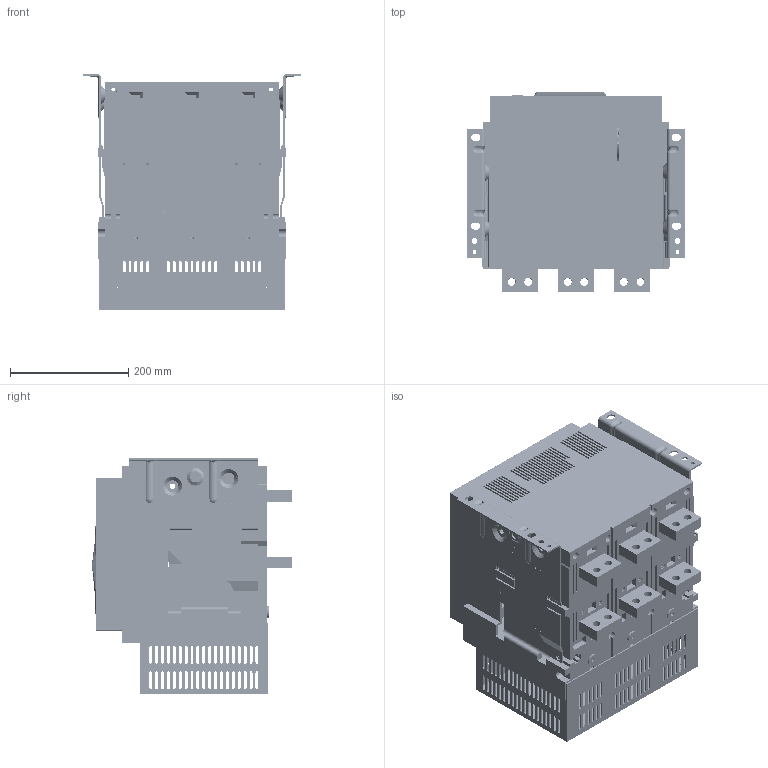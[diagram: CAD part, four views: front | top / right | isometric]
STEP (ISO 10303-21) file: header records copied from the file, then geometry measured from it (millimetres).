
FILE_DESCRIPTION((''),'2;1');
FILE_NAME('NA8G-2500-F-2500-3P_ASM','2020-05-12T16:42:21',('lcc'),(''),'CREO PARAMETRIC BY PTC INC, 2018020','CREO PARAMETRIC BY PTC INC, 2018020','');
FILE_SCHEMA(('CONFIG_CONTROL_DESIGN','SHAPE_APPEARANCE_LAYERS_GROUPS'));
Products named in the file (34): 5ZTD-055-001; GBT809-M6X12-A; 5ZTD-055-001_ASM; 8ZTD-580-004; 8ZTD-550-104; 5ZTD-580-004_ASM; 8ZTD-160-007; 8ZTD-550-106; 8ZTD-742-077; GBT879-4X30; 5ZTD-550-315-2_ASM; 8ZTD-156-048; GBT97_1-6; GBT93-6; GBT6170-M6; GBT5783-M6X35; 5ZTD-550-316-2_ASM; 5ZTD-024-025V; GBT809-M4X8-B; 5ZTD-024-025_ASM; 8ZTD-580-355; 8043A0726101; 5ZTD-558-458-4_ASM; 8ZTD-300-285-1; 8ZTD-150-019-1; 5ZTD-300-089-1_ASM; 8-060-MIANBAN-11; 8-253-289; 8-253-290; 8-253-309; 8-253-034; 8ZTD_060_016-201801; 8ZTD_060_017-201801; NA8G-2500-F-2500-3P_ASM
Assembly tree (64 placements, depth 5):
  NA8G-2500-F-2500-3P_ASM
    5ZTD-055-001_ASM
      5ZTD-055-001
      GBT809-M6X12-A  x12
    5ZTD-550-316-2_ASM  x3
      5ZTD-550-315-2_ASM
        5ZTD-580-004_ASM
          8ZTD-580-004
          8ZTD-550-104
        8ZTD-160-007
        8ZTD-550-106
        8ZTD-742-077
        GBT879-4X30  x2
      8ZTD-156-048
      GBT97_1-6
      GBT93-6
      GBT6170-M6
      GBT5783-M6X35
    5ZTD-024-025_ASM
      5ZTD-024-025V
      GBT809-M6X12-A  x10
      GBT809-M4X8-B  x2
    5ZTD-558-458-4_ASM  x3
      8ZTD-580-355
      8043A0726101
    5ZTD-300-089-1_ASM
      8ZTD-300-285-1
      8ZTD-150-019-1
    8-060-MIANBAN-11
    8-253-289
    8-253-290
    8-253-309
    8-253-034
    8ZTD_060_016-201801
    8ZTD_060_017-201801
Bounding box: 370 x 339 x 400 mm (x, y, z)
Volume: 7109745.1 mm3; surface area: 2718366.4 mm2
Topology: 89 solids, 144 shells, 5324 faces, 14387 edges, 9423 vertices
Faces by surface type: plane 3422, cylinder 1500, cone 288, bspline 69, torus 25, sphere 20
Entity records: 155182 total; most frequent: CARTESIAN_POINT 26447, ORIENTED_EDGE 21557, DIRECTION 20612, EDGE_CURVE 10822, VECTOR 8324, LINE 8324, PRESENTATION_STYLE_ASSIGNMENT 8141, STYLED_ITEM 8130
